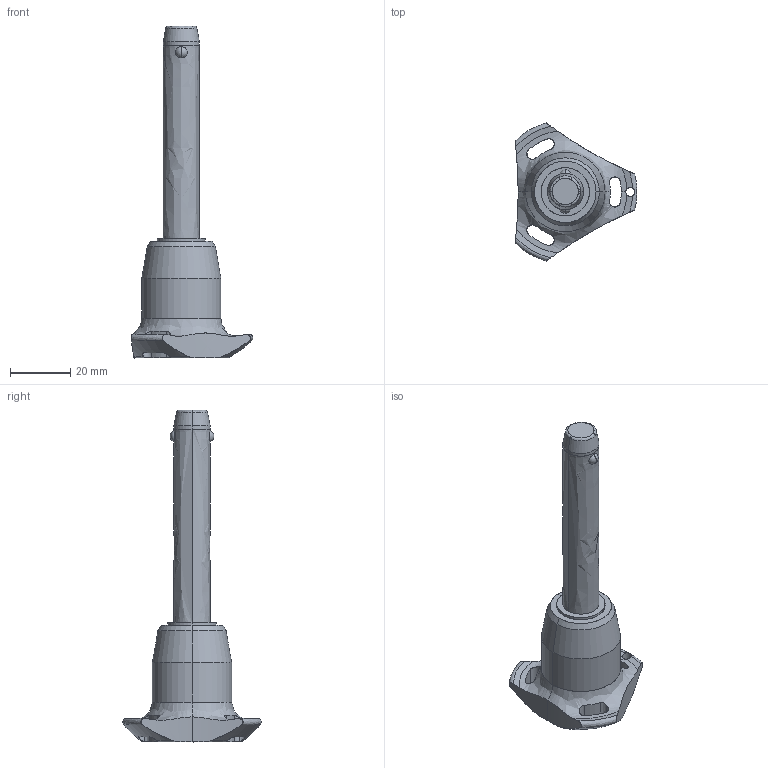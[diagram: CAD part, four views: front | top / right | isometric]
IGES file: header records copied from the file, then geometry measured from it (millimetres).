
Start section: SolidWorks IGES file using analytic representation for surfaces
Global section: file name: C:\Users\ianosborn\Desktop\33060_v2\33060.BK_v2_20240910_IGES\33060.W0872.igs; native system: SolidWorks 2019; preprocessor: SolidWorks 2019; author: IanOsborn; date: 240910.201551; units: millimetre
Bounding box: 40.5 x 45.88 x 110.3 mm (x, y, z)
Surface area: 8578.4 mm2 (no closed solid volume)
Topology: 0 solids, 0 shells, 68 faces, 1433 edges, 1429 vertices
Faces by surface type: revolution 52, bspline 16
